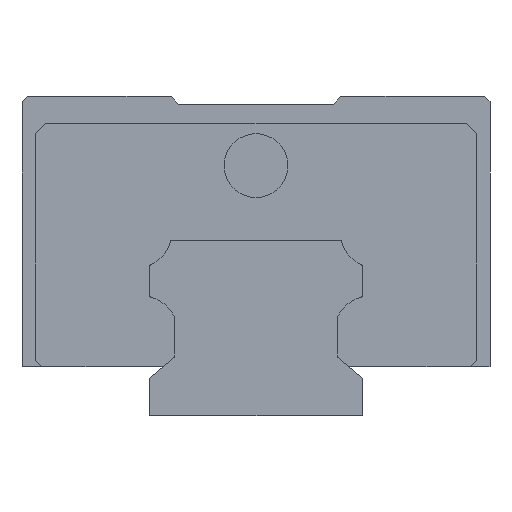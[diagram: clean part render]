
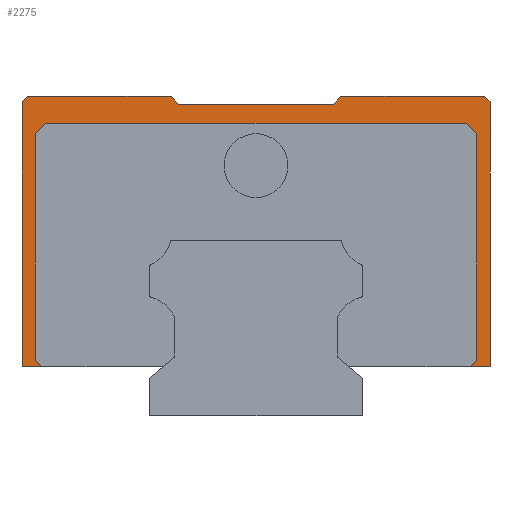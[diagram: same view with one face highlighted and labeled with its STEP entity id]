
A CAD part, left-side view. The second image highlights one B-rep face of the part: STEP entity #2275.
In plain terms, the highlighted planar face has unit normal (-1, 0, 0).
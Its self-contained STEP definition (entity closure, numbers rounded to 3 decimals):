
#143 = EDGE_CURVE ( 'NONE', #510, #1266, #2102, .T. ) ;
#162 = LINE ( 'NONE', #3227, #4079 ) ;
#190 = VERTEX_POINT ( 'NONE', #329 ) ;
#230 = EDGE_CURVE ( 'NONE', #1259, #5561, #3265, .T. ) ;
#235 = CARTESIAN_POINT ( 'NONE',  ( -27., -7.333, 29.25 ) ) ;
#329 = CARTESIAN_POINT ( 'NONE',  ( -27., -19.75, 27.5 ) ) ;
#394 = VECTOR ( 'NONE', #666, 1000. ) ;
#410 = VECTOR ( 'NONE', #1073, 1000. ) ;
#428 = FACE_OUTER_BOUND ( 'NONE', #2829, .T. ) ;
#433 = LINE ( 'NONE', #2318, #3966 ) ;
#457 = LINE ( 'NONE', #2377, #5647 ) ;
#462 = EDGE_CURVE ( 'NONE', #190, #5564, #4530, .T. ) ;
#499 = CARTESIAN_POINT ( 'NONE',  ( -27., -20.75, 26.5 ) ) ;
#510 = VERTEX_POINT ( 'NONE', #945 ) ;
#567 = CARTESIAN_POINT ( 'NONE',  ( -27., 7.333, 29.25 ) ) ;
#646 = EDGE_CURVE ( 'NONE', #4276, #3319, #5225, .T. ) ;
#666 = DIRECTION ( 'NONE',  ( 0., -1., 0. ) ) ;
#669 = LINE ( 'NONE', #3096, #4378 ) ;
#763 = ORIENTED_EDGE ( 'NONE', *, *, #1109, .F. ) ;
#799 = EDGE_CURVE ( 'NONE', #510, #5335, #433, .T. ) ;
#916 = EDGE_CURVE ( 'NONE', #3215, #190, #5325, .T. ) ;
#945 = CARTESIAN_POINT ( 'NONE',  ( -27., -7.963, 30. ) ) ;
#974 = CARTESIAN_POINT ( 'NONE',  ( -27., 22., 4.6 ) ) ;
#1073 = DIRECTION ( 'NONE',  ( 0., 0.707, 0.707 ) ) ;
#1109 = EDGE_CURVE ( 'NONE', #1600, #5660, #4145, .T. ) ;
#1116 = CARTESIAN_POINT ( 'NONE',  ( -27., -22., 29.5 ) ) ;
#1244 = EDGE_CURVE ( 'NONE', #1600, #1266, #162, .T. ) ;
#1259 = VERTEX_POINT ( 'NONE', #5828 ) ;
#1266 = VERTEX_POINT ( 'NONE', #5926 ) ;
#1334 = EDGE_CURVE ( 'NONE', #3743, #6102, #6043, .T. ) ;
#1349 = DIRECTION ( 'NONE',  ( 1., 0., 0. ) ) ;
#1374 = EDGE_CURVE ( 'NONE', #5335, #1753, #5517, .T. ) ;
#1403 = ORIENTED_EDGE ( 'NONE', *, *, #3708, .F. ) ;
#1600 = VERTEX_POINT ( 'NONE', #1116 ) ;
#1646 = CARTESIAN_POINT ( 'NONE',  ( -27., -22., 4.6 ) ) ;
#1655 = CARTESIAN_POINT ( 'NONE',  ( -27., 7.963, 30. ) ) ;
#1738 = DIRECTION ( 'NONE',  ( 0., 1., 0. ) ) ;
#1746 = ORIENTED_EDGE ( 'NONE', *, *, #1334, .F. ) ;
#1753 = VERTEX_POINT ( 'NONE', #567 ) ;
#1770 = CARTESIAN_POINT ( 'NONE',  ( -27., -7.333, 29.25 ) ) ;
#1843 = CARTESIAN_POINT ( 'NONE',  ( -27., 20.15, 4.6 ) ) ;
#1867 = VECTOR ( 'NONE', #5327, 1000. ) ;
#1981 = CARTESIAN_POINT ( 'NONE',  ( -27., 22., 30. ) ) ;
#2102 = LINE ( 'NONE', #4931, #394 ) ;
#2151 = LINE ( 'NONE', #6072, #4155 ) ;
#2235 = CARTESIAN_POINT ( 'NONE',  ( -27., 11.775, -3.775 ) ) ;
#2275 = ADVANCED_FACE ( 'NONE', ( #428 ), #6062, .F. ) ;
#2277 = ORIENTED_EDGE ( 'NONE', *, *, #4943, .F. ) ;
#2291 = VECTOR ( 'NONE', #2496, 1000. ) ;
#2318 = CARTESIAN_POINT ( 'NONE',  ( -27., -7.963, 30. ) ) ;
#2323 = DIRECTION ( 'NONE',  ( 0., 0.707, -0.707 ) ) ;
#2374 = VECTOR ( 'NONE', #2862, 1000. ) ;
#2377 = CARTESIAN_POINT ( 'NONE',  ( -27., 7.333, 29.25 ) ) ;
#2405 = CARTESIAN_POINT ( 'NONE',  ( -27., 21.5, 30. ) ) ;
#2426 = EDGE_CURVE ( 'NONE', #6102, #4276, #5686, .T. ) ;
#2456 = ORIENTED_EDGE ( 'NONE', *, *, #916, .F. ) ;
#2487 = VECTOR ( 'NONE', #5988, 1000. ) ;
#2496 = DIRECTION ( 'NONE',  ( 0., 0.707, -0.707 ) ) ;
#2829 = EDGE_LOOP ( 'NONE', ( #1746, #1403, #4309, #5033, #2456, #2277, #4613, #3032, #763, #4718, #3286, #5934, #3840, #3881, #4009, #6023, #4433, #4828 ) ) ;
#2862 = DIRECTION ( 'NONE',  ( 0., 0., 1. ) ) ;
#2871 = VECTOR ( 'NONE', #3608, 1000. ) ;
#2964 = VECTOR ( 'NONE', #1738, 1000. ) ;
#3009 = VERTEX_POINT ( 'NONE', #1655 ) ;
#3014 = CARTESIAN_POINT ( 'NONE',  ( -27., 21.5, 30. ) ) ;
#3032 = ORIENTED_EDGE ( 'NONE', *, *, #4496, .F. ) ;
#3096 = CARTESIAN_POINT ( 'NONE',  ( -27., -20.75, 30. ) ) ;
#3145 = CARTESIAN_POINT ( 'NONE',  ( -27., -20.75, 5.2 ) ) ;
#3179 = CARTESIAN_POINT ( 'NONE',  ( -27., 19.75, 27.5 ) ) ;
#3215 = VERTEX_POINT ( 'NONE', #499 ) ;
#3227 = CARTESIAN_POINT ( 'NONE',  ( -27., -22., 29.5 ) ) ;
#3228 = CARTESIAN_POINT ( 'NONE',  ( -27., 22., 4.6 ) ) ;
#3245 = DIRECTION ( 'NONE',  ( 0., 1., 0. ) ) ;
#3253 = VECTOR ( 'NONE', #6109, 1000. ) ;
#3255 = DIRECTION ( 'NONE',  ( 0., 0., -1. ) ) ;
#3265 = LINE ( 'NONE', #5153, #3764 ) ;
#3286 = ORIENTED_EDGE ( 'NONE', *, *, #143, .F. ) ;
#3319 = VERTEX_POINT ( 'NONE', #5241 ) ;
#3321 = LINE ( 'NONE', #5207, #5141 ) ;
#3332 = CARTESIAN_POINT ( 'NONE',  ( -27., -22., 4.6 ) ) ;
#3445 = CARTESIAN_POINT ( 'NONE',  ( -27., -19.625, 27.625 ) ) ;
#3508 = LINE ( 'NONE', #3014, #2291 ) ;
#3515 = LINE ( 'NONE', #1981, #1867 ) ;
#3608 = DIRECTION ( 'NONE',  ( 0., 0., -1. ) ) ;
#3708 = EDGE_CURVE ( 'NONE', #5445, #3743, #3321, .T. ) ;
#3743 = VERTEX_POINT ( 'NONE', #3753 ) ;
#3753 = CARTESIAN_POINT ( 'NONE',  ( -27., 20.75, 5.2 ) ) ;
#3764 = VECTOR ( 'NONE', #4349, 1000. ) ;
#3840 = ORIENTED_EDGE ( 'NONE', *, *, #1374, .T. ) ;
#3841 = EDGE_CURVE ( 'NONE', #6119, #3009, #3515, .T. ) ;
#3881 = ORIENTED_EDGE ( 'NONE', *, *, #4822, .T. ) ;
#3931 = DIRECTION ( 'NONE',  ( 0., 0., 1. ) ) ;
#3942 = AXIS2_PLACEMENT_3D ( 'NONE', #4652, #1349, #3245 ) ;
#3966 = VECTOR ( 'NONE', #5265, 1000. ) ;
#4009 = ORIENTED_EDGE ( 'NONE', *, *, #3841, .F. ) ;
#4053 = CARTESIAN_POINT ( 'NONE',  ( -27., -22., 28. ) ) ;
#4079 = VECTOR ( 'NONE', #4297, 1000. ) ;
#4145 = LINE ( 'NONE', #4053, #2871 ) ;
#4155 = VECTOR ( 'NONE', #2323, 1000. ) ;
#4274 = EDGE_CURVE ( 'NONE', #5564, #5445, #2151, .T. ) ;
#4276 = VERTEX_POINT ( 'NONE', #3228 ) ;
#4297 = DIRECTION ( 'NONE',  ( 0., 0.707, 0.707 ) ) ;
#4309 = ORIENTED_EDGE ( 'NONE', *, *, #4274, .F. ) ;
#4336 = DIRECTION ( 'NONE',  ( 0., 0.643, 0.766 ) ) ;
#4349 = DIRECTION ( 'NONE',  ( 0., -0.707, 0.707 ) ) ;
#4378 = VECTOR ( 'NONE', #3931, 1000. ) ;
#4433 = ORIENTED_EDGE ( 'NONE', *, *, #646, .F. ) ;
#4452 = CARTESIAN_POINT ( 'NONE',  ( -27., 20.75, 26.5 ) ) ;
#4496 = EDGE_CURVE ( 'NONE', #5660, #1259, #4974, .T. ) ;
#4530 = LINE ( 'NONE', #5510, #2964 ) ;
#4613 = ORIENTED_EDGE ( 'NONE', *, *, #230, .F. ) ;
#4652 = CARTESIAN_POINT ( 'NONE',  ( -27., -22., 30. ) ) ;
#4718 = ORIENTED_EDGE ( 'NONE', *, *, #1244, .T. ) ;
#4822 = EDGE_CURVE ( 'NONE', #1753, #3009, #457, .T. ) ;
#4828 = ORIENTED_EDGE ( 'NONE', *, *, #2426, .F. ) ;
#4840 = CARTESIAN_POINT ( 'NONE',  ( -27., 9., 4.6 ) ) ;
#4877 = VECTOR ( 'NONE', #5489, 1000. ) ;
#4931 = CARTESIAN_POINT ( 'NONE',  ( -27., 22., 30. ) ) ;
#4943 = EDGE_CURVE ( 'NONE', #5561, #3215, #669, .T. ) ;
#4974 = LINE ( 'NONE', #1646, #4877 ) ;
#5033 = ORIENTED_EDGE ( 'NONE', *, *, #462, .F. ) ;
#5141 = VECTOR ( 'NONE', #3255, 1000. ) ;
#5153 = CARTESIAN_POINT ( 'NONE',  ( -27., -33.775, 18.225 ) ) ;
#5207 = CARTESIAN_POINT ( 'NONE',  ( -27., 20.75, 30. ) ) ;
#5225 = LINE ( 'NONE', #974, #2374 ) ;
#5241 = CARTESIAN_POINT ( 'NONE',  ( -27., 22., 29.5 ) ) ;
#5265 = DIRECTION ( 'NONE',  ( 0., 0.643, -0.766 ) ) ;
#5325 = LINE ( 'NONE', #3445, #410 ) ;
#5327 = DIRECTION ( 'NONE',  ( 0., -1., 0. ) ) ;
#5335 = VERTEX_POINT ( 'NONE', #235 ) ;
#5389 = EDGE_CURVE ( 'NONE', #6119, #3319, #3508, .T. ) ;
#5445 = VERTEX_POINT ( 'NONE', #4452 ) ;
#5489 = DIRECTION ( 'NONE',  ( 0., 1., 0. ) ) ;
#5510 = CARTESIAN_POINT ( 'NONE',  ( -27., -22., 27.5 ) ) ;
#5517 = LINE ( 'NONE', #1770, #5959 ) ;
#5561 = VERTEX_POINT ( 'NONE', #3145 ) ;
#5564 = VERTEX_POINT ( 'NONE', #3179 ) ;
#5605 = DIRECTION ( 'NONE',  ( 0., 1., 0. ) ) ;
#5647 = VECTOR ( 'NONE', #4336, 1000. ) ;
#5660 = VERTEX_POINT ( 'NONE', #3332 ) ;
#5686 = LINE ( 'NONE', #4840, #3253 ) ;
#5828 = CARTESIAN_POINT ( 'NONE',  ( -27., -20.15, 4.6 ) ) ;
#5926 = CARTESIAN_POINT ( 'NONE',  ( -27., -21.5, 30. ) ) ;
#5934 = ORIENTED_EDGE ( 'NONE', *, *, #799, .T. ) ;
#5959 = VECTOR ( 'NONE', #5605, 1000. ) ;
#5988 = DIRECTION ( 'NONE',  ( 0., -0.707, -0.707 ) ) ;
#6023 = ORIENTED_EDGE ( 'NONE', *, *, #5389, .T. ) ;
#6043 = LINE ( 'NONE', #2235, #2487 ) ;
#6062 = PLANE ( 'NONE',  #3942 ) ;
#6072 = CARTESIAN_POINT ( 'NONE',  ( -27., -2.375, 49.625 ) ) ;
#6102 = VERTEX_POINT ( 'NONE', #1843 ) ;
#6109 = DIRECTION ( 'NONE',  ( 0., 1., 0. ) ) ;
#6119 = VERTEX_POINT ( 'NONE', #2405 ) ;
